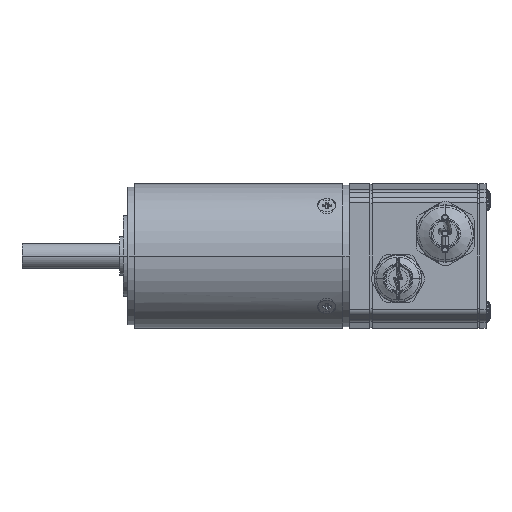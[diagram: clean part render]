
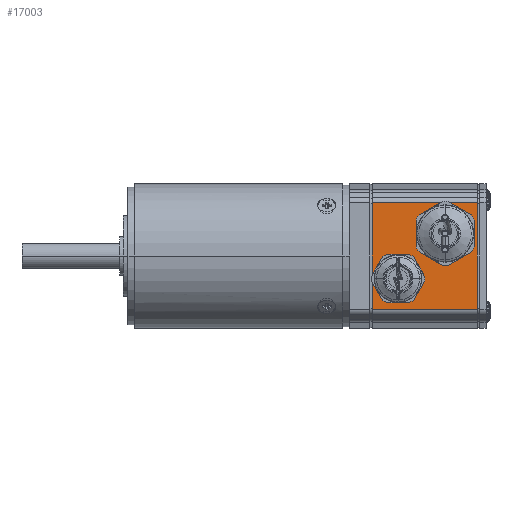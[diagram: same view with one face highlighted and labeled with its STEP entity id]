
A CAD part, front view. The second image highlights one B-rep face of the part: STEP entity #17003.
In plain terms, the highlighted planar face has unit normal (0, -1, 0).
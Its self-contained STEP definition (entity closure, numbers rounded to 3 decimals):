
#1516=DIRECTION('',(0.,0.,-1.));
#1517=VECTOR('',#1516,33.);
#1518=CARTESIAN_POINT('',(108.75,-37.5,16.5));
#1519=LINE('',#1518,#1517);
#1654=DIRECTION('',(1.,0.,0.));
#1655=VECTOR('',#1654,32.6);
#1656=CARTESIAN_POINT('',(108.75,-37.5,-16.5));
#1657=LINE('',#1656,#1655);
#1661=DIRECTION('',(1.,0.,0.));
#1662=VECTOR('',#1661,32.6);
#1663=CARTESIAN_POINT('',(108.75,-37.5,16.5));
#1664=LINE('',#1663,#1662);
#1668=CARTESIAN_POINT('',(131.35,-37.5,7.));
#1669=DIRECTION('',(0.,-1.,0.));
#1670=DIRECTION('',(0.,0.,-1.));
#1671=AXIS2_PLACEMENT_3D('',#1668,#1669,#1670);
#1676=CARTESIAN_POINT('',(131.35,-37.5,7.));
#1677=DIRECTION('',(0.,-1.,0.));
#1678=DIRECTION('',(0.,0.,1.));
#1679=AXIS2_PLACEMENT_3D('',#1676,#1677,#1678);
#1684=CARTESIAN_POINT('',(116.75,-37.5,-7.));
#1685=DIRECTION('',(0.,-1.,0.));
#1686=DIRECTION('',(0.,0.,-1.));
#1687=AXIS2_PLACEMENT_3D('',#1684,#1685,#1686);
#1692=CARTESIAN_POINT('',(116.75,-37.5,-7.));
#1693=DIRECTION('',(0.,-1.,0.));
#1694=DIRECTION('',(0.,0.,1.));
#1695=AXIS2_PLACEMENT_3D('',#1692,#1693,#1694);
#1824=DIRECTION('',(0.,0.,-1.));
#1825=VECTOR('',#1824,33.);
#1826=CARTESIAN_POINT('',(141.35,-37.5,16.5));
#1827=LINE('',#1826,#1825);
#13806=CARTESIAN_POINT('',(108.75,-37.5,16.5));
#13807=VERTEX_POINT('',#13806);
#13808=CARTESIAN_POINT('',(108.75,-37.5,-16.5));
#13809=VERTEX_POINT('',#13808);
#13842=CARTESIAN_POINT('',(141.35,-37.5,16.5));
#13843=VERTEX_POINT('',#13842);
#13844=CARTESIAN_POINT('',(141.35,-37.5,-16.5));
#13845=VERTEX_POINT('',#13844);
#14050=CARTESIAN_POINT('',(131.35,-37.5,-0.75));
#14051=CARTESIAN_POINT('',(131.35,-37.5,14.75));
#14052=VERTEX_POINT('',#14050);
#14053=VERTEX_POINT('',#14051);
#14054=CARTESIAN_POINT('',(116.75,-37.5,-13.25));
#14055=CARTESIAN_POINT('',(116.75,-37.5,-0.75));
#14056=VERTEX_POINT('',#14054);
#14057=VERTEX_POINT('',#14055);
#16978=CARTESIAN_POINT('',(108.75,-37.5,16.5));
#16979=DIRECTION('',(0.,-1.,0.));
#16980=DIRECTION('',(0.,0.,-1.));
#16981=AXIS2_PLACEMENT_3D('',#16978,#16979,#16980);
#16982=PLANE('',#16981);
#16983=ORIENTED_EDGE('',*,*,#16777,.F.);
#16985=ORIENTED_EDGE('',*,*,#16984,.T.);
#16987=ORIENTED_EDGE('',*,*,#16986,.T.);
#16988=ORIENTED_EDGE('',*,*,#16970,.F.);
#16989=EDGE_LOOP('',(#16983,#16985,#16987,#16988));
#16990=FACE_OUTER_BOUND('',#16989,.F.);
#16992=ORIENTED_EDGE('',*,*,#16991,.T.);
#16994=ORIENTED_EDGE('',*,*,#16993,.T.);
#16995=EDGE_LOOP('',(#16992,#16994));
#16996=FACE_BOUND('',#16995,.F.);
#16998=ORIENTED_EDGE('',*,*,#16997,.T.);
#17000=ORIENTED_EDGE('',*,*,#16999,.T.);
#17001=EDGE_LOOP('',(#16998,#17000));
#17002=FACE_BOUND('',#17001,.F.);
#17003=ADVANCED_FACE('',(#16990,#16996,#17002),#16982,.T.);
#1672=CIRCLE('',#1671,7.75);
#1680=CIRCLE('',#1679,7.75);
#1688=CIRCLE('',#1687,6.25);
#1696=CIRCLE('',#1695,6.25);
#16777=EDGE_CURVE('',#13807,#13809,#1519,.T.);
#16970=EDGE_CURVE('',#13809,#13845,#1657,.T.);
#16984=EDGE_CURVE('',#13807,#13843,#1664,.T.);
#16986=EDGE_CURVE('',#13843,#13845,#1827,.T.);
#16991=EDGE_CURVE('',#14052,#14053,#1672,.T.);
#16993=EDGE_CURVE('',#14053,#14052,#1680,.T.);
#16997=EDGE_CURVE('',#14056,#14057,#1688,.T.);
#16999=EDGE_CURVE('',#14057,#14056,#1696,.T.);
